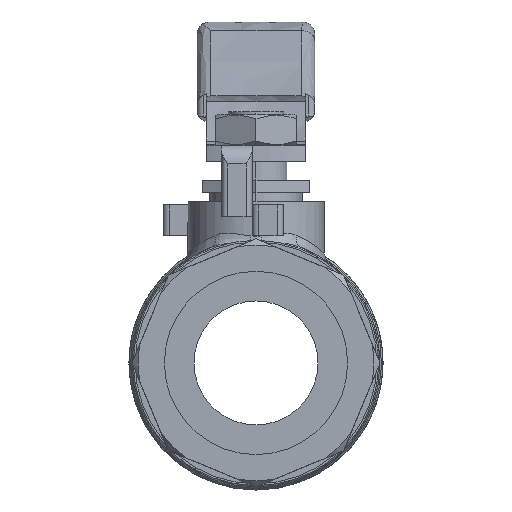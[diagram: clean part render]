
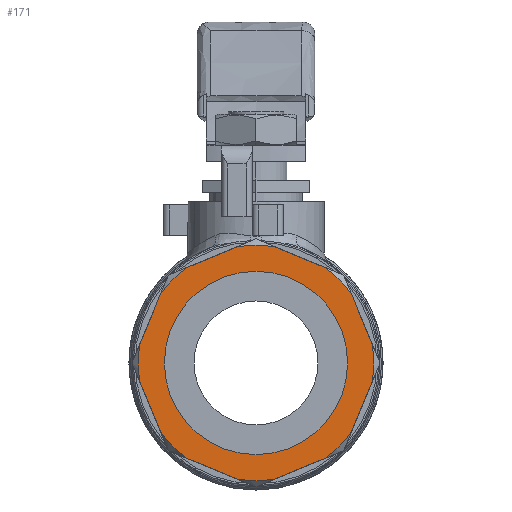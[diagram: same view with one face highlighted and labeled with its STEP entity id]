
A CAD part, left-side view. The second image highlights one B-rep face of the part: STEP entity #171.
In plain terms, the highlighted planar face has unit normal (-1, 0, 0).
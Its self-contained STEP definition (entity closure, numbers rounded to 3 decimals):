
#171=ADVANCED_FACE('',(#1545,#1546),#1544,.T.);
#1544=PLANE('',#3430);
#1545=FACE_OUTER_BOUND('',#3431,.T.);
#1546=FACE_BOUND('',#3432,.T.);
#3427=CARTESIAN_POINT('',(-34.,-23.084,-23.084));
#3428=DIRECTION('',(-1.,0.,0.));
#3429=DIRECTION('',(0.,0.,1.));
#3430=AXIS2_PLACEMENT_3D('',#3427,#3428,#3429);
#3431=EDGE_LOOP('',(#4519,#4520,#4521,#4522,#4523,#4524,#4525,#4526,#4527,#4528,#4529,#4530,#4531,#4532,#4533,#4534));
#3432=EDGE_LOOP('',(#4535,#4536));
#4519=ORIENTED_EDGE('',*,*,#5197,.F.);
#4520=ORIENTED_EDGE('',*,*,#5033,.T.);
#4521=ORIENTED_EDGE('',*,*,#4994,.F.);
#4522=ORIENTED_EDGE('',*,*,#5036,.T.);
#4523=ORIENTED_EDGE('',*,*,#5237,.F.);
#4524=ORIENTED_EDGE('',*,*,#5215,.T.);
#4525=ORIENTED_EDGE('',*,*,#5002,.F.);
#4526=ORIENTED_EDGE('',*,*,#5217,.T.);
#4527=ORIENTED_EDGE('',*,*,#5238,.F.);
#4528=ORIENTED_EDGE('',*,*,#5213,.T.);
#4529=ORIENTED_EDGE('',*,*,#5239,.F.);
#4530=ORIENTED_EDGE('',*,*,#5210,.T.);
#4531=ORIENTED_EDGE('',*,*,#4984,.F.);
#4532=ORIENTED_EDGE('',*,*,#4992,.T.);
#4533=ORIENTED_EDGE('',*,*,#5191,.F.);
#4534=ORIENTED_EDGE('',*,*,#5189,.T.);
#4535=ORIENTED_EDGE('',*,*,#5240,.T.);
#4536=ORIENTED_EDGE('',*,*,#5241,.T.);
#4984=EDGE_CURVE('',#6315,#6322,#6323,.T.);
#4992=EDGE_CURVE('',#6315,#6370,#6377,.T.);
#4994=EDGE_CURVE('',#6384,#6391,#6392,.T.);
#5002=EDGE_CURVE('',#6440,#6447,#6448,.T.);
#5033=EDGE_CURVE('',#6652,#6391,#6659,.T.);
#5036=EDGE_CURVE('',#6384,#6671,#6678,.T.);
#5189=EDGE_CURVE('',#7678,#7670,#7679,.T.);
#5191=EDGE_CURVE('',#7678,#6370,#7691,.T.);
#5197=EDGE_CURVE('',#6652,#7670,#7730,.T.);
#5210=EDGE_CURVE('',#7809,#6322,#7816,.T.);
#5213=EDGE_CURVE('',#7823,#7830,#7837,.T.);
#5215=EDGE_CURVE('',#7843,#6447,#7850,.T.);
#5217=EDGE_CURVE('',#6440,#7856,#7863,.T.);
#5237=EDGE_CURVE('',#7843,#6671,#7992,.T.);
#5238=EDGE_CURVE('',#7823,#7856,#7998,.T.);
#5239=EDGE_CURVE('',#7809,#7830,#8004,.T.);
#5240=EDGE_CURVE('',#8010,#8011,#8012,.T.);
#5241=EDGE_CURVE('',#8011,#8010,#8018,.T.);
#6315=VERTEX_POINT('',#9323);
#6322=VERTEX_POINT('',#9328);
#6323=LINE('',#9329,#9330);
#6370=VERTEX_POINT('',#9366);
#6377=CIRCLE('',#9374,18.995);
#6384=VERTEX_POINT('',#9376);
#6391=VERTEX_POINT('',#9381);
#6392=LINE('',#9382,#9383);
#6440=VERTEX_POINT('',#9420);
#6447=VERTEX_POINT('',#9425);
#6448=LINE('',#9426,#9427);
#6652=VERTEX_POINT('',#9587);
#6659=CIRCLE('',#9595,18.995);
#6671=VERTEX_POINT('',#9600);
#6678=CIRCLE('',#9608,18.995);
#7670=VERTEX_POINT('',#10385);
#7678=VERTEX_POINT('',#10391);
#7679=CIRCLE('',#10395,18.995);
#7691=LINE('',#10400,#10401);
#7730=LINE('',#10432,#10433);
#7809=VERTEX_POINT('',#10491);
#7816=CIRCLE('',#10499,18.995);
#7823=VERTEX_POINT('',#10501);
#7830=VERTEX_POINT('',#10506);
#7837=CIRCLE('',#10514,18.995);
#7843=VERTEX_POINT('',#10515);
#7850=CIRCLE('',#10523,18.995);
#7856=VERTEX_POINT('',#10524);
#7863=CIRCLE('',#10532,18.995);
#7992=LINE('',#10629,#10630);
#7998=LINE('',#10632,#10633);
#8004=LINE('',#10635,#10636);
#8010=VERTEX_POINT('',#10638);
#8011=VERTEX_POINT('',#10639);
#8012=CIRCLE('',#10643,14.785);
#8018=CIRCLE('',#10647,14.785);
#9323=CARTESIAN_POINT('',(-34.,-3.005,18.755));
#9328=CARTESIAN_POINT('',(-34.,-11.137,15.387));
#9329=CARTESIAN_POINT('',(-34.,-3.005,18.755));
#9330=VECTOR('',#9331,8.802);
#9331=DIRECTION('',(0.,-0.924,-0.383));
#9366=CARTESIAN_POINT('',(-34.,3.005,18.755));
#9371=CARTESIAN_POINT('',(-34.,0.,0.));
#9372=DIRECTION('',(-1.,0.,0.));
#9373=DIRECTION('',(0.,0.,-1.));
#9374=AXIS2_PLACEMENT_3D('',#9371,#9372,#9373);
#9376=CARTESIAN_POINT('',(-34.,15.387,-11.137));
#9381=CARTESIAN_POINT('',(-34.,18.755,-3.005));
#9382=CARTESIAN_POINT('',(-34.,15.387,-11.137));
#9383=VECTOR('',#9384,8.802);
#9384=DIRECTION('',(0.,0.383,0.924));
#9420=CARTESIAN_POINT('',(-34.,-11.137,-15.387));
#9425=CARTESIAN_POINT('',(-34.,-3.005,-18.755));
#9426=CARTESIAN_POINT('',(-34.,-11.137,-15.387));
#9427=VECTOR('',#9428,8.802);
#9428=DIRECTION('',(0.,0.924,-0.383));
#9587=CARTESIAN_POINT('',(-34.,18.755,3.005));
#9592=CARTESIAN_POINT('',(-34.,0.,0.));
#9593=DIRECTION('',(-1.,0.,0.));
#9594=DIRECTION('',(0.,0.,-1.));
#9595=AXIS2_PLACEMENT_3D('',#9592,#9593,#9594);
#9600=CARTESIAN_POINT('',(-34.,11.137,-15.387));
#9605=CARTESIAN_POINT('',(-34.,0.,0.));
#9606=DIRECTION('',(-1.,0.,0.));
#9607=DIRECTION('',(0.,0.,-1.));
#9608=AXIS2_PLACEMENT_3D('',#9605,#9606,#9607);
#10385=CARTESIAN_POINT('',(-34.,15.387,11.137));
#10391=CARTESIAN_POINT('',(-34.,11.137,15.387));
#10392=CARTESIAN_POINT('',(-34.,0.,0.));
#10393=DIRECTION('',(-1.,0.,0.));
#10394=DIRECTION('',(0.,0.,-1.));
#10395=AXIS2_PLACEMENT_3D('',#10392,#10393,#10394);
#10400=CARTESIAN_POINT('',(-34.,11.137,15.387));
#10401=VECTOR('',#10402,8.802);
#10402=DIRECTION('',(0.,-0.924,0.383));
#10432=CARTESIAN_POINT('',(-34.,18.755,3.005));
#10433=VECTOR('',#10434,8.802);
#10434=DIRECTION('',(0.,-0.383,0.924));
#10491=CARTESIAN_POINT('',(-34.,-15.387,11.137));
#10496=CARTESIAN_POINT('',(-34.,0.,0.));
#10497=DIRECTION('',(-1.,0.,0.));
#10498=DIRECTION('',(0.,0.,-1.));
#10499=AXIS2_PLACEMENT_3D('',#10496,#10497,#10498);
#10501=CARTESIAN_POINT('',(-34.,-18.755,-3.005));
#10506=CARTESIAN_POINT('',(-34.,-18.755,3.005));
#10511=CARTESIAN_POINT('',(-34.,0.,0.));
#10512=DIRECTION('',(-1.,0.,0.));
#10513=DIRECTION('',(0.,0.,-1.));
#10514=AXIS2_PLACEMENT_3D('',#10511,#10512,#10513);
#10515=CARTESIAN_POINT('',(-34.,3.005,-18.755));
#10520=CARTESIAN_POINT('',(-34.,0.,0.));
#10521=DIRECTION('',(-1.,0.,0.));
#10522=DIRECTION('',(0.,0.158,-0.987));
#10523=AXIS2_PLACEMENT_3D('',#10520,#10521,#10522);
#10524=CARTESIAN_POINT('',(-34.,-15.387,-11.137));
#10529=CARTESIAN_POINT('',(-34.,0.,0.));
#10530=DIRECTION('',(-1.,0.,0.));
#10531=DIRECTION('',(0.,0.,-1.));
#10532=AXIS2_PLACEMENT_3D('',#10529,#10530,#10531);
#10629=CARTESIAN_POINT('',(-34.,3.005,-18.755));
#10630=VECTOR('',#10631,8.802);
#10631=DIRECTION('',(0.,0.924,0.383));
#10632=CARTESIAN_POINT('',(-34.,-18.755,-3.005));
#10633=VECTOR('',#10634,8.802);
#10634=DIRECTION('',(0.,0.383,-0.924));
#10635=CARTESIAN_POINT('',(-34.,-15.387,11.137));
#10636=VECTOR('',#10637,8.802);
#10637=DIRECTION('',(0.,-0.383,-0.924));
#10638=CARTESIAN_POINT('',(-34.,0.,14.785));
#10639=CARTESIAN_POINT('',(-34.,0.,-14.785));
#10640=CARTESIAN_POINT('',(-34.,0.,0.));
#10641=DIRECTION('',(1.,0.,0.));
#10642=DIRECTION('',(0.,0.,1.));
#10643=AXIS2_PLACEMENT_3D('',#10640,#10641,#10642);
#10644=CARTESIAN_POINT('',(-34.,0.,0.));
#10645=DIRECTION('',(1.,0.,0.));
#10646=DIRECTION('',(0.,0.,1.));
#10647=AXIS2_PLACEMENT_3D('',#10644,#10645,#10646);
